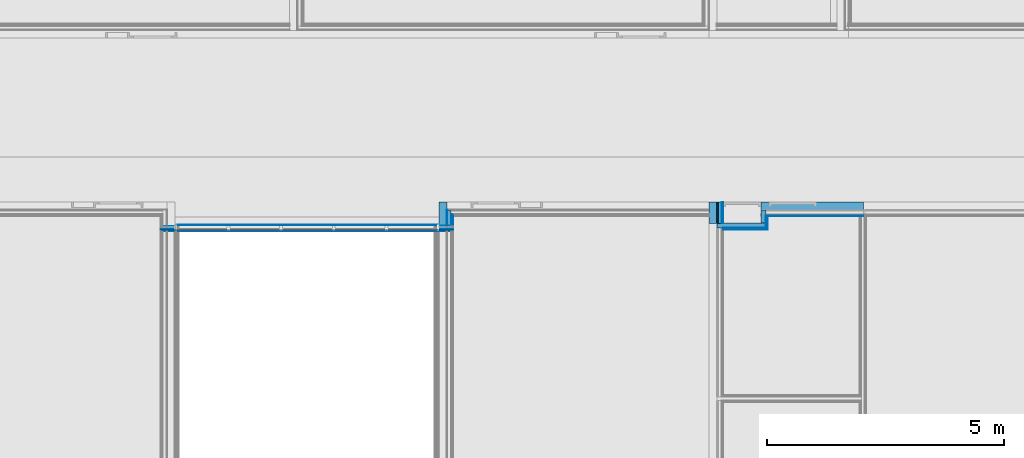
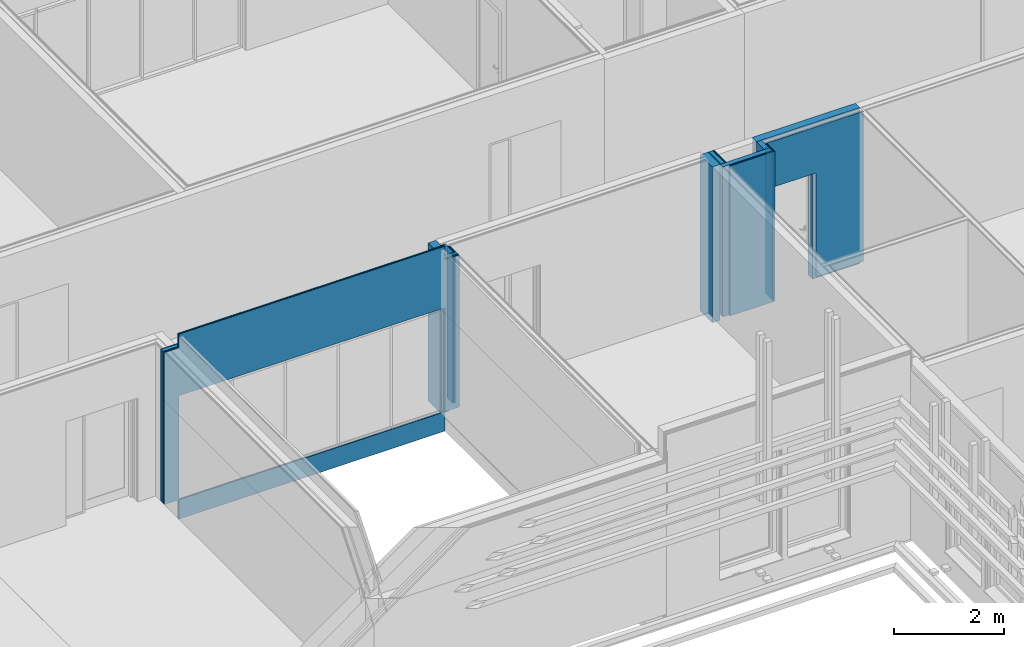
# One storey, part 88 of 139: 29 building element parts, 2 openings, 6 elements without a shape of their own.
"""IFC2X3 building model written with IfcOpenShell, lengths in millimetres."""

from ifc_helpers import new_model, entity, si_unit, converted_unit, derived_unit, money_unit, direction, frame, origin_with_axes, place, context, subcontext, project, spatial, faceted_brep, material, type_object, element, aggregate, save


model = new_model("IFC2X3")

# Units and contexts
model_context = context("Model", 3, precision=0.01, world=origin_with_axes(), true_north=direction((0.0, 1.0)))
body_context = subcontext(model_context, "Body", "Model", "MODEL_VIEW")
ifc_project = project(units=[si_unit("LENGTHUNIT", "METRE", prefix="MILLI"), si_unit("AREAUNIT", "SQUARE_METRE"), si_unit("VOLUMEUNIT", "CUBIC_METRE"), converted_unit("PLANEANGLEUNIT", "DEGREE", entity("IfcPlaneAngleMeasure", 0.0174532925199), si_unit("PLANEANGLEUNIT", "RADIAN"), dimensions=[0, 0, 0, 0, 0, 0, 0]), money_unit("EUR"), converted_unit("TIMEUNIT", "Year", entity("IfcTimeMeasure", 31556926.0), si_unit("TIMEUNIT", "SECOND"), dimensions=[0, 0, 1, 0, 0, 0, 0]), si_unit("MASSUNIT", "GRAM", prefix="KILO"), si_unit("THERMODYNAMICTEMPERATUREUNIT", "DEGREE_CELSIUS"), si_unit("LUMINOUSINTENSITYUNIT", "LUMEN"), si_unit("ENERGYUNIT", "JOULE", prefix="MEGA"), derived_unit("THERMALCONDUCTANCEUNIT", [(si_unit("POWERUNIT", "WATT"), 1), (si_unit("LENGTHUNIT", "METRE"), -1), (si_unit("THERMODYNAMICTEMPERATUREUNIT", "KELVIN"), -1)]), derived_unit("SPECIFICHEATCAPACITYUNIT", [(si_unit("ENERGYUNIT", "JOULE"), 1), (si_unit("MASSUNIT", "GRAM", prefix="KILO"), -1), (si_unit("THERMODYNAMICTEMPERATUREUNIT", "KELVIN"), -1)]), derived_unit("MASSDENSITYUNIT", [(si_unit("MASSUNIT", "GRAM", prefix="KILO"), 1), (si_unit("VOLUMEUNIT", "CUBIC_METRE"), -1)])], contexts=[model_context])

# Site, building, storey
site_placement = place(None, origin_with_axes())
site = spatial("IfcSite", under=ifc_project, at=site_placement, Name="Kolde pst 67a", CompositionType="ELEMENT")
building_placement = place(site_placement, origin_with_axes())
building = spatial("IfcBuilding", under=site, at=building_placement, Name="Riigigümnaasium", CompositionType="ELEMENT")
storey_placement = place(building_placement, frame((0.0, 0.0, 4600.0), z_axis=(0.0, 0.0, 1.0), x_axis=(1.0, 0.0, 0.0)))
storey = spatial("IfcBuildingStorey", under=building, at=storey_placement, Name="2. korrus", CompositionType="ELEMENT", Elevation=4600.0)

# Wall, building element parts
wall_type_1 = type_object("IfcWallType", Name="SS-CLT-16/1_vill75+krohv 52 dB 300", PredefinedType="NOTDEFINED")
wall_1_placement = place(storey_placement, frame((18350.0035442, 55889.9806016, -150.0), z_axis=(0.0, 0.0, 1.0), x_axis=(0.0, -1.0, 0.0)))
wall_1 = element("IfcWall", 1, at=wall_1_placement, inside=storey, type_object=wall_type_1, Name="Sisesein")
ifc_material_1 = material(Name="_VIIMISTLUSKIHT - viimistlus vastavalt SA osale")
building_element_part_1_placement = place(wall_1_placement, origin_with_axes())
building_element_part_1 = element("IfcBuildingElementPart", 2, at=building_element_part_1_placement, material=ifc_material_1, Name="_VIIMISTLUSKIHT - viimistlus vastavalt SA osale", context=body_context, shape_type="Brep", body=[
    faceted_brep([(290.0, 290.0, 3509.0), (290.0, 300.0, 3509.0), (290.0, 300.0, 150.0), (290.0, 290.0, 150.0), (474.972349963, 300.0, 3509.0), (474.972349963, 290.0, 3509.0), (474.972349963, 300.0, 150.0), (474.972349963, 290.0, 150.0)], [[[0, 1, 2, 3]], [[4, 1, 0, 5]], [[1, 4, 6, 2]], [[7, 3, 2, 6]], [[5, 0, 3, 7]], [[4, 5, 7, 6]]]),
])
ifc_material_2 = material(Name="_PLAATMATERJAL - tuletõkkekipsplaat, Knauf Red GKF või samaväärne")
building_element_part_2_placement = place(wall_1_placement, origin_with_axes())
building_element_part_2 = element("IfcBuildingElementPart", 3, at=building_element_part_2_placement, material=ifc_material_2, Name="_PLAATMATERJAL - tuletõkkekipsplaat, Knauf Red GKF või samaväärne", context=body_context, shape_type="Brep", body=[
    faceted_brep([(275.0, 275.0, 3509.0), (275.0, 290.0, 3509.0), (275.0, 290.0, 147.0), (275.0, 275.0, 147.0), (474.972349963, 290.0, 3509.0), (474.972349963, 275.0, 3509.0), (474.972349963, 290.0, 147.0), (474.972349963, 275.0, 147.0)], [[[0, 1, 2, 3]], [[4, 1, 0, 5]], [[1, 4, 6, 2]], [[7, 3, 2, 6]], [[5, 0, 3, 7]], [[4, 5, 7, 6]]]),
])
building_element_part_3_placement = place(wall_1_placement, origin_with_axes())
building_element_part_3 = element("IfcBuildingElementPart", 4, at=building_element_part_3_placement, material=ifc_material_2, Name="_PLAATMATERJAL - tuletõkkekipsplaat, Knauf Red GKF või samaväärne", context=body_context, shape_type="Brep", body=[
    faceted_brep([(260.0, 260.0, 3509.0), (260.0, 275.0, 3509.0), (260.0, 275.0, 147.0), (260.0, 260.0, 147.0), (474.972349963, 275.0, 3509.0), (474.972349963, 260.0, 3509.0), (474.972349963, 275.0, 147.0), (474.972349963, 260.0, 147.0)], [[[0, 1, 2, 3]], [[4, 1, 0, 5]], [[1, 4, 6, 2]], [[7, 3, 2, 6]], [[5, 0, 3, 7]], [[4, 5, 7, 6]]]),
])
ifc_material_3 = material(Name="_PLAATMATERJAL - OSB3 plaat")
building_element_part_4_placement = place(wall_1_placement, origin_with_axes())
building_element_part_4 = element("IfcBuildingElementPart", 5, at=building_element_part_4_placement, material=ifc_material_3, Name="_PLAATMATERJAL - OSB3 plaat", context=body_context, shape_type="Brep", body=[
    faceted_brep([(250.0, 250.0, 3509.0), (250.0, 260.0, 3509.0), (250.0, 260.0, 147.0), (250.0, 250.0, 147.0), (474.972349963, 260.0, 3509.0), (474.972349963, 250.0, 3509.0), (474.972349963, 260.0, 147.0), (474.972349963, 250.0, 147.0)], [[[0, 1, 2, 3]], [[4, 1, 0, 5]], [[1, 4, 6, 2]], [[7, 3, 2, 6]], [[5, 0, 3, 7]], [[4, 5, 7, 6]]]),
])
ifc_material_4 = material(Name="_KARKASS - metallkarkass CW 75/50/06 ja UW 75/40/06, samm 600, vahel mineraalvill, helineeldetegur αw = 1.0,  ISOVER ACOUSTIC 75mm või samaväärne")
building_element_part_5_placement = place(wall_1_placement, origin_with_axes())
building_element_part_5 = element("IfcBuildingElementPart", 6, at=building_element_part_5_placement, material=ifc_material_4, Name="_KARKASS - metallkarkass CW 75/50/06 ja UW 75/40/06, samm 600, vahel mineraalvill, helineeldetegur αw = 1.0,  ISOVER ACOUSTIC 75mm või samaväärne", context=body_context, shape_type="Brep", body=[
    faceted_brep([(175.0, 175.0, 3509.0), (175.0, 250.0, 3509.0), (175.0, 250.0, 147.0), (175.0, 175.0, 147.0), (474.972349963, 250.0, 3509.0), (474.972349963, 175.0, 3509.0), (474.972349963, 250.0, 147.0), (474.972349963, 175.0, 147.0)], [[[0, 1, 2, 3]], [[4, 1, 0, 5]], [[1, 4, 6, 2]], [[7, 3, 2, 6]], [[5, 0, 3, 7]], [[4, 5, 7, 6]]]),
])
ifc_material_5 = material(Name="_ÕHKVAHE")
building_element_part_6_placement = place(wall_1_placement, origin_with_axes())
building_element_part_6 = element("IfcBuildingElementPart", 7, at=building_element_part_6_placement, material=ifc_material_5, Name="_ÕHKVAHE", context=body_context, shape_type="Brep", body=[
    faceted_brep([(160.0, 160.0, 3509.0), (160.0, 175.0, 3509.0), (160.0, 175.0, 147.0), (160.0, 160.0, 147.0), (474.972349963, 175.0, 3509.0), (474.972349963, 160.0, 3509.0), (474.972349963, 175.0, 147.0), (474.972349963, 160.0, 147.0)], [[[0, 1, 2, 3]], [[4, 1, 0, 5]], [[1, 4, 6, 2]], [[7, 3, 2, 6]], [[5, 0, 3, 7]], [[4, 5, 7, 6]]]),
])
ifc_material_6 = material(Name="_KANDETARIND - CLT ristkihtliimpuit vastavalt EK osale, CLT paigaldusvuugid teibitakse ROTHOBLAAS teibiga")
building_element_part_7_placement = place(wall_1_placement, origin_with_axes())
building_element_part_7 = element("IfcBuildingElementPart", 8, at=building_element_part_7_placement, material=ifc_material_6, Name="_KANDETARIND - CLT ristkihtliimpuit vastavalt EK osale, CLT paigaldusvuugid teibitakse ROTHOBLAAS teibiga", context=body_context, shape_type="Brep", body=[
    faceted_brep([(1.40950362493e-07, 0.0, 3509.0), (1.52266466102e-06, 160.0, 3509.0), (2.35665069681e-05, 160.0, 20.0), (2.35586341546e-05, 0.0, 20.0), (474.972349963, 160.0, 3509.0), (474.972349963, 0.0, 3509.0), (474.972349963, 160.0, 20.0), (474.972349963, 0.0, 20.0)], [[[0, 1, 2, 3]], [[4, 1, 0, 5]], [[1, 4, 6, 2]], [[7, 3, 2, 6]], [[5, 0, 3, 7]], [[4, 5, 7, 6]]]),
])
aggregate(wall_1, [building_element_part_1, building_element_part_2, building_element_part_3, building_element_part_4, building_element_part_5, building_element_part_6, building_element_part_7])

# Wall, opening, building element parts
wall_2_placement = place(storey_placement, frame((12779.9973962, 55574.9939926, -430.0), z_axis=(0.0, 0.0, 1.0), x_axis=(0.999999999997, 2.3846035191e-06, 0.0)))
wall_2 = element("IfcWall", 9, at=wall_2_placement, inside=storey, type_object=wall_type_1, Name="Sisesein")
opening_1_placement = place(wall_2_placement, frame((2785.00307401, 0.0, 430.0), z_axis=(0.0, 0.0, 1.0), x_axis=(1.0, 0.0, 0.0)))
element("IfcOpeningElement", 10, at=opening_1_placement, cuts=wall_2, Name="Ava", context=body_context, shape_type="Brep", body=[
    faceted_brep([(2785.00450477, 299.993358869, 0.0), (2785.00450477, 299.993358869, 2300.0), (2785.00235863, -600.006641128, 2300.0), (2785.00235863, -600.006641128, 0.0), (-2785.00164323, 300.006641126, 0.0), (-2785.00164323, 300.006641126, 2300.0), (-2785.00378938, -599.993358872, 2300.0), (-2785.00378938, -599.993358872, 0.0)], [[[0, 1, 2, 3]], [[0, 4, 5, 1]], [[1, 5, 6, 2]], [[3, 2, 6, 7]], [[4, 0, 3, 7]], [[5, 4, 7, 6]]]),
])
building_element_part_8_placement = place(wall_2_placement, origin_with_axes())
building_element_part_8 = element("IfcBuildingElementPart", 11, at=building_element_part_8_placement, material=ifc_material_5, Name="_ÕHKVAHE", context=body_context, shape_type="Brep", body=[
    faceted_brep([(-0.000209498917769, -160.053887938, 3789.0), (5870.00576645, -160.013997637, 3789.0), (5870.00576645, -160.013997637, 427.0), (5570.00556869, -160.013282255, 427.0), (5570.00556869, -160.013282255, 430.0), (5570.00648185, -160.013282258, 2730.0), (5.13831821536e-05, -160.053887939, 2730.0), (5870.00573068, -175.013997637, 3789.0), (-300.000283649, -160.053172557, 3789.0), (-300.000319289, -174.999284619, 3789.0), (5870.00573068, -175.013997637, 427.0), (5570.00556259, -175.013282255, 427.0), (5570.00556259, -175.013282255, 430.0), (5570.00644608, -175.013282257, 2730.0), (0.000298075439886, -175.000000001, 2730.0), (-0.000141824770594, -160.053887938, 430.0), (-0.000283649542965, -160.053887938, 427.0), (-300.000283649, -160.053172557, 427.0), (-300.000319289, -174.999284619, 427.0), (0.0, -175.0, 427.0), (0.0, -175.0, 430.0)], [[[0, 1, 2, 3, 4, 5, 6]], [[7, 1, 0, 8, 9]], [[1, 7, 10, 2]], [[10, 11, 3, 2]], [[3, 11, 12, 4]], [[4, 12, 13, 5]], [[14, 6, 5, 13]], [[8, 0, 6, 15, 16, 17]], [[9, 8, 17, 18]], [[7, 9, 18, 19, 20, 14, 13, 12, 11, 10]], [[14, 20, 15, 6]], [[15, 20, 19, 16]], [[16, 19, 18, 17]]]),
])
building_element_part_9_placement = place(wall_2_placement, origin_with_axes())
building_element_part_9 = element("IfcBuildingElementPart", 12, at=building_element_part_9_placement, material=ifc_material_4, Name="_KARKASS - metallkarkass CW 75/50/06 ja UW 75/40/06, samm 600, vahel mineraalvill, helineeldetegur αw = 1.0,  ISOVER ACOUSTIC 75mm või samaväärne", context=body_context, shape_type="Brep", body=[
    faceted_brep([(-300.000319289, -174.999284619, 3789.0), (5870.00573068, -175.013997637, 3789.0), (5870.00573068, -175.013997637, 427.0), (5570.00614802, -175.013282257, 427.0), (5570.00556259, -175.013282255, 430.0), (5570.00644608, -175.013282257, 2730.0), (0.000298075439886, -175.000000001, 2730.0), (0.0, -175.0, 430.0), (0.0, -175.0, 427.0), (-300.000319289, -174.999284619, 427.0), (5870.00555184, -250.013997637, 3789.0), (-300.000498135, -249.999284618, 3789.0), (5870.00555184, -250.013997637, 427.0), (5570.00614802, -250.013282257, 427.0), (5570.00553208, -250.013282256, 430.0), (5570.00626723, -250.013282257, 2730.0), (0.000119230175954, -250.000000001, 2730.0), (0.0, -250.000000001, 430.0), (0.0, -250.000000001, 427.0), (-300.000498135, -249.999284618, 427.0)], [[[0, 1, 2, 3, 4, 5, 6, 7, 8, 9]], [[10, 1, 0, 11]], [[1, 10, 12, 2]], [[12, 13, 3, 2]], [[3, 13, 14, 4]], [[14, 15, 5, 4]], [[6, 5, 15, 16]], [[16, 17, 7, 6]], [[7, 17, 18, 8]], [[18, 19, 9, 8]], [[11, 0, 9, 19]], [[10, 11, 19, 18, 17, 16, 15, 14, 13, 12]]]),
])
building_element_part_10_placement = place(wall_2_placement, origin_with_axes())
building_element_part_10 = element("IfcBuildingElementPart", 13, at=building_element_part_10_placement, material=ifc_material_3, Name="_PLAATMATERJAL - OSB3 plaat", context=body_context, shape_type="Brep", body=[
    faceted_brep([(-300.000498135, -249.999284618, 3789.0), (5870.00555184, -250.013997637, 3789.0), (5870.00555184, -250.013997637, 427.0), (5570.00553208, -250.013282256, 427.0), (5570.00626723, -250.013282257, 430.0), (5570.00626723, -250.013282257, 2730.0), (0.000119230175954, -250.000000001, 2730.0), (0.000119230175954, -250.000000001, 430.0), (0.0, -250.000000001, 427.0), (-300.000498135, -249.999284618, 427.0), (5870.00552799, -260.013997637, 3789.0), (-300.000521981, -259.999284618, 3789.0), (-0.000522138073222, -259.999999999, 3789.0), (-0.000515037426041, -257.022295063, 3789.0), (5570.00553509, -257.035577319, 3789.0), (5570.00552799, -260.013282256, 3789.0), (5870.00552799, -260.013997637, 427.0), (5570.00552802, -260.0, 427.0), (5570.00552799, -260.013282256, 427.0), (5570.00624342, -260.000000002, 430.0), (5570.00624339, -260.013282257, 2730.0), (5570.00624339, -260.013282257, 430.0), (9.53841396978e-05, -260.000000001, 2730.0), (9.53841396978e-05, -260.000000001, 430.0), (0.0, -260.000000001, 427.0), (-300.000521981, -259.999284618, 427.0), (4423.25838872, -260.010547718, 430.0), (4423.25838875, -260.010547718, 0.0), (5570.00552801, -260.013282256, 0.0), (5570.00552801, -260.013282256, 280.0), (5570.00552799, -260.013282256, 4030.0), (5570.00552801, -260.013282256, 4091.0), (-0.000619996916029, -259.999999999, 4091.0), (-0.000522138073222, -259.999999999, 4090.0), (-0.000515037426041, -257.022295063, 4090.0), (-0.000515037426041, -257.022295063, 4091.0), (5570.00553509, -257.035577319, 4091.0), (5570.00553509, -257.035577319, 4030.0), (5570.00552802, -260.0, 280.0), (5570.00552802, -260.0, 0.0)], [[[0, 1, 2, 3, 4, 5, 6, 7, 8, 9]], [[10, 1, 0, 11, 12, 13, 14, 15]], [[1, 10, 16, 2]], [[17, 3, 2, 16, 18]], [[17, 19, 4, 3]], [[20, 5, 4, 19, 21]], [[22, 6, 5, 20]], [[23, 7, 6, 22]], [[8, 7, 23, 24]], [[24, 25, 9, 8]], [[11, 0, 9, 25]], [[12, 11, 25, 24, 23, 22, 20, 21, 26, 27, 28, 29, 18, 16, 10, 15, 30, 31, 32, 33]], [[13, 12, 33, 34]], [[14, 13, 34, 35, 36, 37]], [[15, 14, 37, 30]], [[18, 29, 38, 17]], [[27, 26, 19, 17, 38, 39]], [[21, 19, 26]], [[39, 28, 27]], [[29, 28, 39, 38]], [[30, 37, 36, 31]], [[36, 35, 32, 31]], [[34, 33, 32, 35]]]),
])
building_element_part_11_placement = place(wall_2_placement, origin_with_axes())
building_element_part_11 = element("IfcBuildingElementPart", 14, at=building_element_part_11_placement, material=ifc_material_2, Name="_PLAATMATERJAL - tuletõkkekipsplaat, Knauf Red GKF või samaväärne", context=body_context, shape_type="Brep", body=[
    faceted_brep([(5570.00552799, -260.013282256, 3789.0), (5870.00552799, -260.013997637, 3789.0), (5870.00552799, -260.013997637, 427.0), (5570.00552799, -260.013282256, 427.0), (5570.00552801, -260.013282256, 280.0), (5570.00552801, -260.013282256, 0.0), (4423.25838875, -260.010547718, 0.0), (4423.25838872, -260.010547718, 430.0), (5570.00624339, -260.013282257, 430.0), (5570.00624339, -260.013282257, 2730.0), (9.53841396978e-05, -260.000000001, 2730.0), (-300.000521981, -259.999284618, 427.0), (-300.000521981, -259.999284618, 3789.0), (-0.000522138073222, -259.999999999, 3789.0), (-0.000522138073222, -259.999999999, 4090.0), (-0.000619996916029, -259.999999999, 4091.0), (5570.00552801, -260.013282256, 4091.0), (5570.00552799, -260.013282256, 4030.0), (5870.00549222, -275.013997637, 3789.0), (5570.00549222, -275.013282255, 3789.0), (5870.00549222, -275.013997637, 427.0), (5570.00549222, -275.013282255, 427.0), (5570.00549224, -275.013282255, 280.0), (5570.00549224, -275.013282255, 0.0), (-0.000522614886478, -260.051232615, 0.0), (-0.00065576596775, -274.999999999, 0.0), (9.52619707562e-05, -260.05123261, 430.0), (5570.00620762, -275.013282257, 430.0), (5.96150879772e-05, -275.000000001, 430.0), (5570.00620762, -275.013282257, 2730.0), (5.96150879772e-05, -275.000000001, 2730.0), (-300.00055775, -274.999284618, 3789.0), (-300.00055775, -274.999284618, 427.0), (-0.000557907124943, -274.999999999, 3789.0), (-0.000557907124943, -274.999999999, 4090.0), (-0.00065576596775, -274.999999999, 4091.0), (5570.00549224, -275.013282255, 4091.0), (5570.00549222, -275.013282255, 4030.0), (-0.000558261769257, -274.999999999, 427.0), (-0.000522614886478, -260.051232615, 280.0), (-0.000571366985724, -260.051232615, 20.0), (0.0, -260.000000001, 427.0)], [[[0, 1, 2, 3, 4, 5, 6, 7, 8, 9, 10, 11, 12, 13, 14, 15, 16, 17]], [[18, 1, 0, 19]], [[1, 18, 20, 2]], [[21, 3, 2, 20]], [[21, 22, 4, 3]], [[22, 23, 5, 4]], [[24, 6, 5, 23, 25]], [[6, 26, 7]], [[27, 8, 7, 26, 28]], [[29, 9, 8, 27]], [[30, 10, 9, 29]], [[11, 10, 26]], [[31, 12, 11, 32]], [[13, 12, 31, 33]], [[14, 13, 33, 34]], [[14, 34, 35, 15]], [[15, 35, 36, 16]], [[37, 17, 16, 36]], [[19, 0, 17, 37]], [[19, 37, 36, 35, 34, 33, 31, 32, 38, 25, 23, 22, 21, 20, 18], [27, 28, 30, 29]], [[39, 6, 24, 40]], [[38, 41, 39, 40, 24, 25]], [[6, 41, 26]], [[28, 26, 10, 30]], [[11, 26, 41]], [[11, 41, 38, 32]], [[6, 39, 41]]]),
])
building_element_part_12_placement = place(wall_2_placement, origin_with_axes())
building_element_part_12 = element("IfcBuildingElementPart", 15, at=building_element_part_12_placement, material=ifc_material_2, Name="_PLAATMATERJAL - tuletõkkekipsplaat, Knauf Red GKF või samaväärne", context=body_context, shape_type="Brep", body=[
    faceted_brep([(5570.00549222, -275.013282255, 3789.0), (5870.00549222, -275.013997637, 3789.0), (5870.00549222, -275.013997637, 427.0), (5570.00549222, -275.013282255, 427.0), (5570.00549224, -275.013282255, 280.0), (5570.00549224, -275.013282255, 0.0), (-0.00065576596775, -274.999999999, 0.0), (-0.000558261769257, -274.999999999, 427.0), (-300.00055775, -274.999284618, 427.0), (-300.00055775, -274.999284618, 3789.0), (-0.000557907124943, -274.999999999, 3789.0), (-0.000557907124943, -274.999999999, 4090.0), (-0.00065576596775, -274.999999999, 4091.0), (5570.00549224, -275.013282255, 4091.0), (5570.00549222, -275.013282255, 4030.0), (5.96150879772e-05, -275.000000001, 2730.0), (5.96150879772e-05, -275.000000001, 430.0), (5570.00620762, -275.013282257, 430.0), (5570.00620762, -275.013282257, 2730.0), (5870.00545645, -290.013997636, 3789.0), (5570.00545645, -290.013282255, 3789.0), (5870.00545645, -290.013997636, 427.0), (5570.00545645, -290.013282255, 427.0), (5570.00545647, -290.013282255, 280.0), (5570.00545647, -290.013282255, 0.0), (-0.000691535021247, -289.999999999, 0.0), (-0.000594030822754, -289.999999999, 427.0), (-300.000593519, -289.999284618, 427.0), (-300.000593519, -289.999284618, 3789.0), (-0.00059367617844, -289.999999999, 3789.0), (-0.00059367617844, -289.999999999, 4090.0), (-0.000691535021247, -289.999999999, 4091.0), (5570.00545647, -290.013282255, 4091.0), (5570.00545645, -290.013282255, 4030.0), (2.38460344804e-05, -290.000000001, 430.0), (2.38460344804e-05, -290.000000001, 2730.0), (5570.00617185, -290.013282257, 430.0), (5570.00617185, -290.013282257, 2730.0)], [[[0, 1, 2, 3, 4, 5, 6, 7, 8, 9, 10, 11, 12, 13, 14], [15, 16, 17, 18]], [[19, 1, 0, 20]], [[1, 19, 21, 2]], [[22, 3, 2, 21]], [[22, 23, 4, 3]], [[23, 24, 5, 4]], [[25, 6, 5, 24]], [[6, 25, 26, 7]], [[27, 8, 7, 26]], [[28, 9, 8, 27]], [[10, 9, 28, 29]], [[11, 10, 29, 30]], [[11, 30, 31, 12]], [[12, 31, 32, 13]], [[33, 14, 13, 32]], [[20, 0, 14, 33]], [[34, 16, 15, 35]], [[36, 17, 16, 34]], [[37, 18, 17, 36]], [[35, 15, 18, 37]], [[20, 33, 32, 31, 30, 29, 28, 27, 26, 25, 24, 23, 22, 21, 19], [36, 34, 35, 37]]]),
])
building_element_part_13_placement = place(wall_2_placement, origin_with_axes())
building_element_part_13 = element("IfcBuildingElementPart", 16, at=building_element_part_13_placement, material=ifc_material_1, Name="_VIIMISTLUSKIHT - viimistlus vastavalt SA osale", context=body_context, shape_type="Brep", body=[
    faceted_brep([(5570.00543262, -300.013282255, 280.0), (5570.006148, -300.013282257, 430.0), (0.0, -300.000000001, 430.0), (-0.000715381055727, -299.999999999, 20.0), (-0.000715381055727, -299.999999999, 0.0), (5570.00543262, -300.013282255, 0.0), (5570.00545647, -290.013282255, 280.0), (5570.00617185, -290.013282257, 430.0), (2.38460344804e-05, -290.000000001, 430.0), (-0.000691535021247, -289.999999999, 0.0), (5570.00545647, -290.013282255, 0.0)], [[[0, 1, 2, 3, 4, 5]], [[1, 0, 6, 7]], [[1, 7, 8, 2]], [[4, 3, 2, 8, 9]], [[4, 9, 10, 5]], [[0, 5, 10, 6]], [[9, 8, 7, 6, 10]]]),
    faceted_brep([(5570.00545645, -290.013282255, 3789.0), (5870.00545645, -290.013997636, 3789.0), (5870.00545645, -290.013997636, 430.0), (5570.00617185, -290.013282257, 430.0), (5570.00617185, -290.013282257, 2730.0), (2.38460344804e-05, -290.000000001, 2730.0), (2.38460344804e-05, -290.000000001, 430.0), (-300.000593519, -289.999284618, 430.0), (-300.000593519, -289.999284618, 3789.0), (-0.00059367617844, -289.999999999, 3789.0), (-0.00059367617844, -289.999999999, 4090.0), (-0.000691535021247, -289.999999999, 4091.0), (5570.00545647, -290.013282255, 4091.0), (5570.00545645, -290.013282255, 4030.0), (5870.00543261, -300.013997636, 3789.0), (5570.00543261, -300.013282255, 3789.0), (5870.00543261, -300.013997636, 430.0), (5570.006148, -300.013282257, 430.0), (5570.006148, -300.013282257, 2730.0), (0.0, -300.000000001, 2730.0), (0.0, -300.000000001, 430.0), (-300.000617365, -299.999284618, 430.0), (-300.000617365, -299.999284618, 3789.0), (-0.00061752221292, -299.999999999, 3789.0), (-0.00061752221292, -299.999999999, 4090.0), (-0.000715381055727, -299.999999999, 4091.0), (5570.00543262, -300.013282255, 4091.0), (5570.00543261, -300.013282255, 4030.0)], [[[0, 1, 2, 3, 4, 5, 6, 7, 8, 9, 10, 11, 12, 13]], [[14, 1, 0, 15]], [[1, 14, 16, 2]], [[17, 3, 2, 16]], [[18, 4, 3, 17]], [[19, 5, 4, 18]], [[20, 6, 5, 19]], [[21, 7, 6, 20]], [[22, 8, 7, 21]], [[9, 8, 22, 23]], [[10, 9, 23, 24]], [[10, 24, 25, 11]], [[11, 25, 26, 12]], [[27, 13, 12, 26]], [[15, 0, 13, 27]], [[15, 27, 26, 25, 24, 23, 22, 21, 20, 19, 18, 17, 16, 14]]]),
])
aggregate(wall_2, [building_element_part_8, building_element_part_9, building_element_part_10, building_element_part_11, building_element_part_12, building_element_part_13])

# Wall, building element parts
wall_type_2 = type_object("IfcWallType", Name="SS-CLT-16/5_vill75+värv 52 dB 292", PredefinedType="NOTDEFINED")
wall_3_placement = place(storey_placement, frame((24040.0027342, 55889.99417, -130.0), z_axis=(0.0, 0.0, 1.0), x_axis=(0.0, -1.0, 0.0)))
wall_3 = element("IfcWall", 17, at=wall_3_placement, inside=storey, type_object=wall_type_2, Name="Sisesein")
building_element_part_14_placement = place(wall_3_placement, origin_with_axes())
building_element_part_14 = element("IfcBuildingElementPart", 18, at=building_element_part_14_placement, material=ifc_material_1, Name="_VIIMISTLUSKIHT - viimistlus vastavalt SA osale", context=body_context, shape_type="Brep", body=[
    faceted_brep([(-0.000691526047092, 290.0, 3450.0), (447.243903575, 290.0, 3450.0), (447.243903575, 292.0, 3450.0), (-0.000696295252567, 292.0, 3450.0), (-0.000691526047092, 290.0, 130.0), (447.243903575, 290.0, 130.0), (447.243903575, 292.0, 130.0), (-0.000696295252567, 292.0, 130.0)], [[[0, 1, 2, 3]], [[0, 4, 5, 1]], [[2, 1, 5, 6]], [[2, 6, 7, 3]], [[7, 4, 0, 3]], [[4, 7, 6, 5]]]),
])
building_element_part_15_placement = place(wall_3_placement, origin_with_axes())
building_element_part_15 = element("IfcBuildingElementPart", 19, at=building_element_part_15_placement, material=ifc_material_2, Name="_PLAATMATERJAL - tuletõkkekipsplaat, Knauf Red GKF või samaväärne", context=body_context, shape_type="Brep", body=[
    faceted_brep([(-0.000655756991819, 275.0, 3450.0), (447.243903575, 275.0, 3450.0), (447.243903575, 290.0, 3450.0), (-0.000691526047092, 290.0, 3450.0), (-0.000655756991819, 275.0, 127.0), (447.243903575, 275.0, 127.0), (447.243903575, 290.0, 127.0), (-0.000691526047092, 290.0, 127.0)], [[[0, 1, 2, 3]], [[0, 4, 5, 1]], [[2, 1, 5, 6]], [[2, 6, 7, 3]], [[7, 4, 0, 3]], [[4, 7, 6, 5]]]),
])
building_element_part_16_placement = place(wall_3_placement, origin_with_axes())
building_element_part_16 = element("IfcBuildingElementPart", 20, at=building_element_part_16_placement, material=ifc_material_2, Name="_PLAATMATERJAL - tuletõkkekipsplaat, Knauf Red GKF või samaväärne", context=body_context, shape_type="Brep", body=[
    faceted_brep([(-0.000619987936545, 260.0, 3450.0), (447.243903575, 260.0, 3450.0), (447.243903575, 275.0, 3450.0), (-0.000655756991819, 275.0, 3450.0), (-0.000619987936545, 260.0, 127.0), (447.243903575, 260.0, 127.0), (447.243903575, 275.0, 127.0), (-0.000655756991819, 275.0, 127.0)], [[[0, 1, 2, 3]], [[0, 4, 5, 1]], [[2, 1, 5, 6]], [[2, 6, 7, 3]], [[7, 4, 0, 3]], [[4, 7, 6, 5]]]),
])
building_element_part_17_placement = place(wall_3_placement, origin_with_axes())
building_element_part_17 = element("IfcBuildingElementPart", 21, at=building_element_part_17_placement, material=ifc_material_4, Name="_KARKASS - metallkarkass CW 75/50/06 ja UW 75/40/06, samm 600, vahel mineraalvill, helineeldetegur αw = 1.0,  ISOVER ACOUSTIC 75mm või samaväärne", context=body_context, shape_type="Brep", body=[
    faceted_brep([(-0.000619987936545, 260.0, 3450.0), (-0.00044114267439, 185.0, 3450.0), (447.243903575, 185.0, 3450.0), (447.243903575, 260.0, 3450.0), (-0.000619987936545, 260.0, 127.0), (-0.00044114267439, 185.0, 127.0), (447.243903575, 185.0, 127.0), (447.243903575, 260.0, 127.0)], [[[0, 1, 2, 3]], [[1, 0, 4, 5]], [[6, 2, 1, 5]], [[7, 3, 2, 6]], [[0, 3, 7, 4]], [[7, 6, 5, 4]]]),
])
building_element_part_18_placement = place(wall_3_placement, origin_with_axes())
building_element_part_18 = element("IfcBuildingElementPart", 22, at=building_element_part_18_placement, material=ifc_material_5, Name="_ÕHKVAHE", context=body_context, shape_type="Brep", body=[
    faceted_brep([(447.243903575, 160.0, 3450.0), (-0.000381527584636, 160.0, 3450.0), (-0.000381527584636, 160.0, 127.0), (447.243903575, 160.0, 127.0), (447.243903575, 185.0, 3450.0), (-0.00044114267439, 185.0, 3450.0), (-0.00044114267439, 185.0, 127.0), (447.243903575, 185.0, 127.0)], [[[0, 1, 2, 3]], [[4, 5, 1, 0]], [[5, 6, 2, 1]], [[3, 2, 6, 7]], [[4, 0, 3, 7]], [[4, 7, 6, 5]]]),
])
building_element_part_19_placement = place(wall_3_placement, origin_with_axes())
building_element_part_19 = element("IfcBuildingElementPart", 23, at=building_element_part_19_placement, material=ifc_material_6, Name="_KANDETARIND - CLT ristkihtliimpuit vastavalt EK osale, CLT paigaldusvuugid teibitakse ROTHOBLAAS teibiga", context=body_context, shape_type="Brep", body=[
    faceted_brep([(447.243903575, 0.0, 3450.0), (447.243903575, 160.0, 3450.0), (-0.000381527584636, 160.0, 3450.0), (8.97415475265e-09, 0.0, 3450.0), (447.243903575, 0.0, 0.0), (447.243903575, 160.0, 0.0), (-0.000381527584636, 160.0, 0.0), (8.97415475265e-09, 0.0, 0.0)], [[[0, 1, 2, 3]], [[1, 0, 4, 5]], [[1, 5, 6, 2]], [[3, 2, 6, 7]], [[0, 3, 7, 4]], [[6, 5, 4, 7]]]),
])
aggregate(wall_3, [building_element_part_14, building_element_part_15, building_element_part_16, building_element_part_17, building_element_part_18, building_element_part_19])

wall_type_3 = type_object("IfcWallType", Name="SS-MK-10/2_šahti sein+plaat 140", PredefinedType="NOTDEFINED")
wall_4_placement = place(storey_placement, frame((24040.0027342, 55307.9923216, 0.0), z_axis=(0.0, 0.0, 1.0), x_axis=(1.0, 0.0, 0.0)))
wall_4 = element("IfcWall", 24, at=wall_4_placement, inside=storey, type_object=wall_type_3, Name="Sisesein")
ifc_material_7 = material(Name="_KARKASS - metallkarkass CW 100/50/06 ja UW 100/40/06, samm 600, vahel mineraalvill, helineeldetegur αw = 1.0,  ISOVER ACOUSTIC 100mm või samaväärne")
building_element_part_20_placement = place(wall_4_placement, origin_with_axes())
building_element_part_20 = element("IfcBuildingElementPart", 25, at=building_element_part_20_placement, material=ifc_material_7, Name="_KARKASS - metallkarkass CW 100/50/06 ja UW 100/40/06, samm 600, vahel mineraalvill, helineeldetegur αw = 1.0,  ISOVER ACOUSTIC 100mm või samaväärne", context=body_context, shape_type="Brep", body=[
    faceted_brep([(160.0, 140.0, 3320.0), (1192.0, 140.0, 3320.0), (1192.0, 140.0, 0.0), (160.0, 140.0, 0.0), (1192.0, 40.0, 3320.0), (160.0, 40.0, 3320.0), (1192.0, 40.0, 0.0), (160.0, 40.0, 0.0)], [[[0, 1, 2, 3]], [[4, 1, 0, 5]], [[1, 4, 6, 2]], [[2, 6, 7, 3]], [[5, 0, 3, 7]], [[4, 5, 7, 6]]]),
])
ifc_material_8 = material(Name="_PLAATMATERJAL - kipsplaat veekindel")
building_element_part_21_placement = place(wall_4_placement, origin_with_axes())
building_element_part_21 = element("IfcBuildingElementPart", 26, at=building_element_part_21_placement, material=ifc_material_8, Name="_PLAATMATERJAL - kipsplaat veekindel", context=body_context, shape_type="Brep", body=[
    faceted_brep([(290.0, 40.0, 3320.0), (1204.5, 40.0, 3320.0), (1204.5, 40.0, 0.0), (290.0, 40.0, 0.0), (1204.5, 27.5, 3320.0), (290.0, 27.5, 3320.0), (1204.5, 27.5, 0.0), (290.0, 27.5, 0.0)], [[[0, 1, 2, 3]], [[4, 1, 0, 5]], [[1, 4, 6, 2]], [[2, 6, 7, 3]], [[5, 0, 3, 7]], [[4, 5, 7, 6]]]),
])
building_element_part_22_placement = place(wall_4_placement, origin_with_axes())
building_element_part_22 = element("IfcBuildingElementPart", 27, at=building_element_part_22_placement, material=ifc_material_8, Name="_PLAATMATERJAL - kipsplaat veekindel", context=body_context, shape_type="Brep", body=[
    faceted_brep([(290.0, 27.5, 3320.0), (1217.0, 27.5, 3320.0), (1217.0, 27.5, 0.0), (290.0, 27.5, 0.0), (1217.0, 15.0, 3320.0), (290.0, 15.0, 3320.0), (1217.0, 15.0, 0.0), (290.0, 15.0, 0.0)], [[[0, 1, 2, 3]], [[4, 1, 0, 5]], [[1, 4, 6, 2]], [[2, 6, 7, 3]], [[5, 0, 3, 7]], [[4, 5, 7, 6]]]),
])
building_element_part_23_placement = place(wall_4_placement, origin_with_axes())
building_element_part_23 = element("IfcBuildingElementPart", 28, at=building_element_part_23_placement, material=ifc_material_1, Name="_VIIMISTLUSKIHT - viimistlus vastavalt SA osale", context=body_context, shape_type="Brep", body=[
    faceted_brep([(292.0, 15.0, 3320.0), (1232.0, 15.0, 3320.0), (1232.0, 15.0, 0.0), (292.0, 15.0, 0.0), (1232.0, 0.0, 3320.0), (292.0, 0.0, 3320.0), (1232.0, 0.0, 0.0), (292.0, 0.0, 0.0)], [[[0, 1, 2, 3]], [[4, 1, 0, 5]], [[1, 4, 6, 2]], [[2, 6, 7, 3]], [[5, 0, 3, 7]], [[4, 5, 7, 6]]]),
])
aggregate(wall_4, [building_element_part_20, building_element_part_21, building_element_part_22, building_element_part_23])

wall_5_placement = place(storey_placement, frame((25272.0027342, 55307.9923216, 0.0), z_axis=(0.0, 0.0, 1.0), x_axis=(0.0, 1.0, 0.0)))
wall_5 = element("IfcWall", 29, at=wall_5_placement, inside=storey, type_object=wall_type_3, Name="Sisesein")
building_element_part_24_placement = place(wall_5_placement, origin_with_axes())
building_element_part_24 = element("IfcBuildingElementPart", 30, at=building_element_part_24_placement, material=ifc_material_7, Name="_KARKASS - metallkarkass CW 100/50/06 ja UW 100/40/06, samm 600, vahel mineraalvill, helineeldetegur αw = 1.0,  ISOVER ACOUSTIC 100mm või samaväärne", context=body_context, shape_type="Brep", body=[
    faceted_brep([(421.994935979, 139.999164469, 3320.0), (421.994302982, 40.0, 3320.0), (421.994302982, 40.0, 0.0), (421.994935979, 139.999164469, 0.0), (140.0, 40.0, 3320.0), (140.0, 140.0, 3320.0), (140.0, 40.0, 0.0), (140.0, 140.0, 0.0)], [[[0, 1, 2, 3]], [[4, 1, 0, 5]], [[1, 4, 6, 2]], [[7, 3, 2, 6]], [[5, 0, 3, 7]], [[4, 5, 7, 6]]]),
])
building_element_part_25_placement = place(wall_5_placement, origin_with_axes())
building_element_part_25 = element("IfcBuildingElementPart", 31, at=building_element_part_25_placement, material=ifc_material_8, Name="_PLAATMATERJAL - kipsplaat veekindel", context=body_context, shape_type="Brep", body=[
    faceted_brep([(291.994302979, 40.0, 3320.0), (291.994223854, 27.5, 3320.0), (291.994223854, 27.5, 0.0), (291.994302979, 40.0, 0.0), (40.0, 27.5, 3320.0), (40.0, 40.0, 3320.0), (40.0, 27.5, 0.0), (40.0, 40.0, 0.0)], [[[0, 1, 2, 3]], [[4, 1, 0, 5]], [[1, 4, 6, 2]], [[7, 3, 2, 6]], [[5, 0, 3, 7]], [[4, 5, 7, 6]]]),
])
building_element_part_26_placement = place(wall_5_placement, origin_with_axes())
building_element_part_26 = element("IfcBuildingElementPart", 32, at=building_element_part_26_placement, material=ifc_material_8, Name="_PLAATMATERJAL - kipsplaat veekindel", context=body_context, shape_type="Brep", body=[
    faceted_brep([(291.994223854, 27.5, 3320.0), (291.994144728, 15.0, 3320.0), (291.994144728, 15.0, 0.0), (291.994223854, 27.5, 0.0), (27.5, 15.0, 3320.0), (27.5, 27.5, 3320.0), (27.5, 15.0, 0.0), (27.5, 27.5, 0.0)], [[[0, 1, 2, 3]], [[4, 1, 0, 5]], [[1, 4, 6, 2]], [[7, 3, 2, 6]], [[5, 0, 3, 7]], [[4, 5, 7, 6]]]),
])
building_element_part_27_placement = place(wall_5_placement, origin_with_axes())
building_element_part_27 = element("IfcBuildingElementPart", 33, at=building_element_part_27_placement, material=ifc_material_1, Name="_VIIMISTLUSKIHT - viimistlus vastavalt SA osale", context=body_context, shape_type="Brep", body=[
    faceted_brep([(289.994144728, 15.0, 3320.0), (289.994049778, 0.0, 3320.0), (289.994049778, 0.0, 0.0), (289.994144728, 15.0, 0.0), (15.0, 0.0, 3320.0), (15.0, 15.0, 3320.0), (15.0, 0.0, 0.0), (15.0, 15.0, 0.0)], [[[0, 1, 2, 3]], [[4, 1, 0, 5]], [[1, 4, 6, 2]], [[7, 3, 2, 6]], [[5, 0, 3, 7]], [[4, 5, 7, 6]]]),
])
aggregate(wall_5, [building_element_part_24, building_element_part_25, building_element_part_26, building_element_part_27])

# Wall, opening, building element parts
wall_6_placement = place(storey_placement, frame((25132.0045825, 55889.9872576, -150.0), z_axis=(0.0, 0.0, 1.0), x_axis=(0.99999999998, -6.33002341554e-06, 0.0)))
wall_6 = element("IfcWall", 34, at=wall_6_placement, inside=storey, type_object=wall_type_2, Name="Sisesein")
opening_2_placement = place(wall_6_placement, frame((667.9776919, 0.0, 150.0), z_axis=(0.0, 0.0, 1.0), x_axis=(1.0, 0.0, 0.0)))
element("IfcOpeningElement", 35, at=opening_2_placement, cuts=wall_6, Name="Siseuks", context=body_context, shape_type="Brep", body=[
    faceted_brep([(-500.0, 584.0, 2300.0), (-500.0, 584.0, 0.0), (-500.0, -292.0, 0.0), (-500.0, -292.0, 2300.0), (500.0, 584.0, 2300.0), (500.0, 584.0, 0.0), (500.0, -292.0, 0.0), (500.0, -292.0, 2300.0)], [[[0, 1, 2, 3]], [[0, 4, 5, 1]], [[1, 5, 6, 2]], [[3, 2, 6, 7]], [[4, 0, 3, 7]], [[5, 4, 7, 6]]]),
])
building_element_part_28_placement = place(wall_6_placement, origin_with_axes())
building_element_part_28 = element("IfcBuildingElementPart", 36, at=building_element_part_28_placement, material=ifc_material_6, Name="_KANDETARIND - CLT ristkihtliimpuit vastavalt EK osale, CLT paigaldusvuugid teibitakse ROTHOBLAAS teibiga", context=body_context, shape_type="Brep", body=[
    faceted_brep([(167.9776919, 0.0, 2450.0), (167.9776919, 0.0, 150.0), (167.9776919, 0.0, 20.0), (0.0, 0.0, 20.0), (0.0, 0.0, 3470.0), (2156.69134143, 0.0, 3470.0), (2156.69134143, 0.0, 20.0), (1167.9776919, 0.0, 20.0), (1167.9776919, 0.0, 150.0), (1167.9776919, 0.0, 2450.0), (167.9776919, -160.0, 2450.0), (167.9776919, -160.0, 150.0), (167.9776919, -160.0, 20.0), (0.0, -160.0, 20.0), (0.0, -160.0, 3470.0), (2156.69134143, -160.0, 3470.0), (2156.69134143, -160.0, 20.0), (1167.9776919, -160.0, 20.0), (1167.9776919, -160.0, 150.0), (1167.9776919, -160.0, 2450.0)], [[[0, 1, 2, 3, 4, 5, 6, 7, 8, 9]], [[1, 0, 10, 11]], [[1, 11, 12, 2]], [[12, 13, 3, 2]], [[4, 3, 13, 14]], [[14, 15, 5, 4]], [[16, 6, 5, 15]], [[7, 6, 16, 17]], [[18, 8, 7, 17]], [[9, 8, 18, 19]], [[0, 9, 19, 10]], [[19, 18, 17, 16, 15, 14, 13, 12, 11, 10]]]),
])
building_element_part_29_placement = place(wall_6_placement, origin_with_axes())
building_element_part_29 = element("IfcBuildingElementPart", 37, at=building_element_part_29_placement, material=ifc_material_1, Name="_VIIMISTLUSKIHT - viimistlus vastavalt SA osale", context=body_context, shape_type="Brep", body=[
    faceted_brep([(167.9776919, -290.0, 2450.0), (167.9776919, -290.0, 150.0), (124.999987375, -290.0, 150.0), (124.999987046, -290.0, 3470.0), (2156.69134143, -290.0, 3470.0), (2156.69134143, -290.0, 150.0), (1167.9776919, -290.0, 150.0), (1167.9776919, -290.0, 2450.0), (167.9776919, -292.0, 2450.0), (167.9776919, -292.0, 150.0), (125.000000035, -292.0, 150.0), (124.999999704, -292.0, 3470.0), (2156.69134143, -292.0, 3470.0), (2156.69134143, -292.0, 150.0), (1167.9776919, -292.0, 150.0), (1167.9776919, -292.0, 2450.0)], [[[0, 1, 2, 3, 4, 5, 6, 7]], [[1, 0, 8, 9]], [[1, 9, 10, 2]], [[3, 2, 10, 11]], [[4, 3, 11, 12]], [[12, 13, 5, 4]], [[14, 6, 5, 13]], [[7, 6, 14, 15]], [[0, 7, 15, 8]], [[15, 14, 13, 12, 11, 10, 9, 8]]]),
])
aggregate(wall_6, [building_element_part_28, building_element_part_29])

save(model, "model.ifc")
